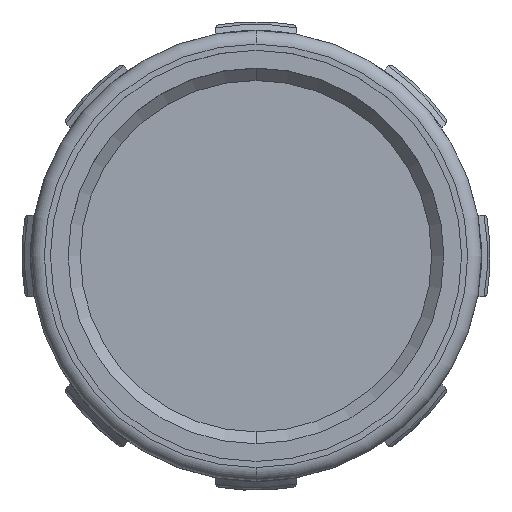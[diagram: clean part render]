
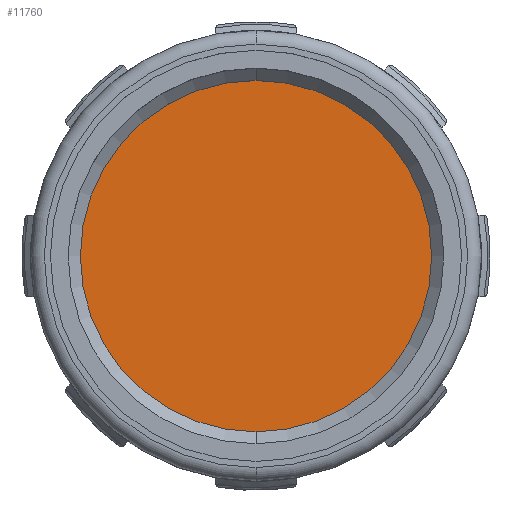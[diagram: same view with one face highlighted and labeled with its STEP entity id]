
A CAD part, top view. The second image highlights one B-rep face of the part: STEP entity #11760.
In plain terms, the highlighted planar face has unit normal (0, 0, 1).
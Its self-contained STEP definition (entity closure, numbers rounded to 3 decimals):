
#6213=CARTESIAN_POINT('',(0.,0.,-14.233));
#6214=DIRECTION('',(0.,0.,-1.));
#6215=DIRECTION('',(0.,1.,0.));
#6216=AXIS2_PLACEMENT_3D('',#6213,#6214,#6215);
#6218=CARTESIAN_POINT('',(0.,0.,-14.233));
#6219=DIRECTION('',(0.,0.,1.));
#6220=DIRECTION('',(0.,1.,0.));
#6221=AXIS2_PLACEMENT_3D('',#6218,#6219,#6220);
#6546=CARTESIAN_POINT('',(0.,15.24,-14.233));
#6547=VERTEX_POINT('',#6546);
#6548=CARTESIAN_POINT('',(0.,-15.24,-14.233));
#6549=VERTEX_POINT('',#6548);
#11751=CARTESIAN_POINT('',(0.,0.,-14.233));
#11752=DIRECTION('',(0.,0.,1.));
#11753=DIRECTION('',(0.,1.,0.));
#11754=AXIS2_PLACEMENT_3D('',#11751,#11752,#11753);
#11755=PLANE('',#11754);
#11756=ORIENTED_EDGE('',*,*,#11746,.T.);
#11757=ORIENTED_EDGE('',*,*,#11730,.F.);
#11758=EDGE_LOOP('',(#11756,#11757));
#11759=FACE_OUTER_BOUND('',#11758,.F.);
#6217=CIRCLE('',#6216,15.24);
#6222=CIRCLE('',#6221,15.24);
#11730=EDGE_CURVE('',#6547,#6549,#6222,.T.);
#11746=EDGE_CURVE('',#6547,#6549,#6217,.T.);
#11760=ADVANCED_FACE('',(#11759),#11755,.T.);
